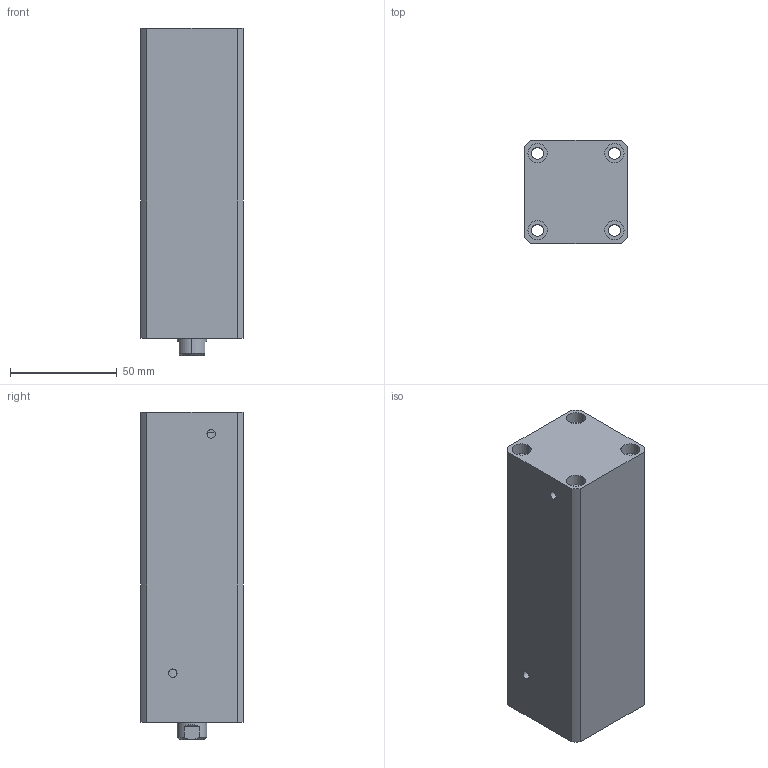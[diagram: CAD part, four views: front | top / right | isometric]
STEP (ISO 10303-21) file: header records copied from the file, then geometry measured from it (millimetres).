
FILE_DESCRIPTION (( 'STEP AP214' ), '1' );
FILE_NAME ('chtb-sdma25x100n_asm.STEP', '2018-05-22T07:14:25', ( 'Windows' ), ( 'Microsoft' ), 'SwSTEP 2.0', 'SolidWorks 2015', '' );
FILE_SCHEMA (( 'AUTOMOTIVE_DESIGN' ));
Length unit declared in the file: millimetre
Products named in the file (4): CHTB-SDMA25X100NHSG; CHTB-SDMA25X100NBT; CHTB-25QG; chtb-sdma25x100n_asm
Assembly tree (3 placements, depth 2):
  chtb-sdma25x100n_asm
    CHTB-25QG
    CHTB-SDMA25X100NBT
    CHTB-SDMA25X100NHSG
Bounding box: 48 x 48 x 153 mm (x, y, z)
Volume: 279617.8 mm3; surface area: 68609.4 mm2
Topology: 3 solids, 3 shells, 142 faces, 379 edges, 257 vertices
Faces by surface type: cylinder 89, plane 34, bspline 10, cone 9
Entity records: 8020 total; most frequent: CARTESIAN_POINT 4393, ORIENTED_EDGE 746, DIRECTION 661, EDGE_CURVE 373, AXIS2_PLACEMENT_3D 272, VERTEX_POINT 257, EDGE_LOOP 180, FACE_OUTER_BOUND 142
